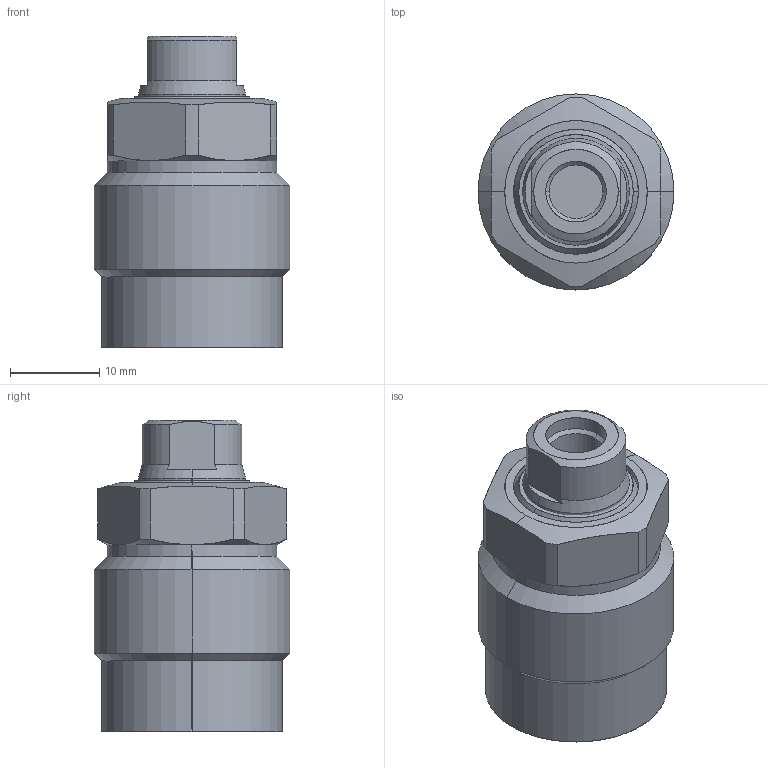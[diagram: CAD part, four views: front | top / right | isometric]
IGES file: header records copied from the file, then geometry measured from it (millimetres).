
Start section: SolidWorks IGES file using analytic representation for surfaces
Global section: file name: D:\abhilash\nijil\cylinder\Clasys1\dp converted\02\pt\01\0102-0201.IGS; native system: SolidWorks 2010; preprocessor: SolidWorks 2010; author: nidheesh; date: 130730.113547; units: millimetre
Bounding box: 22 x 22 x 35 mm (x, y, z)
Surface area: 3410.7 mm2 (no closed solid volume)
Topology: 0 solids, 0 shells, 74 faces, 900 edges, 900 vertices
Faces by surface type: revolution 50, bspline 24
